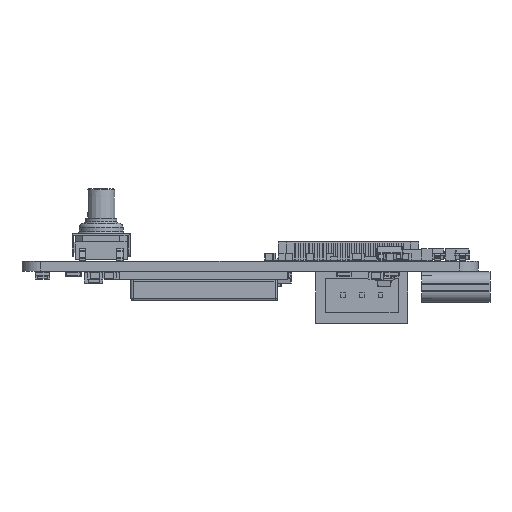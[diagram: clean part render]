
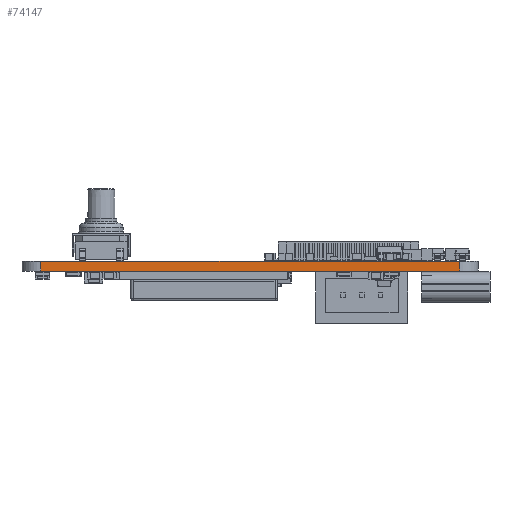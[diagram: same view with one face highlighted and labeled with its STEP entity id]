
A CAD part, left-side view. The second image highlights one B-rep face of the part: STEP entity #74147.
In plain terms, the highlighted planar face has unit normal (-1, 0, 0).
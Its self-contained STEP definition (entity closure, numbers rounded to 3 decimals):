
#73222 = VERTEX_POINT('',#73223);
#73223 = CARTESIAN_POINT('',(3.,-5.5,0.));
#73230 = EDGE_CURVE('',#73231,#73222,#73233,.T.);
#73231 = VERTEX_POINT('',#73232);
#73232 = CARTESIAN_POINT('',(3.,-50.5,0.));
#73233 = LINE('',#73234,#73235);
#73234 = CARTESIAN_POINT('',(3.,-50.5,0.));
#73235 = VECTOR('',#73236,1.);
#73236 = DIRECTION('',(0.,1.,0.));
#73671 = VERTEX_POINT('',#73672);
#73672 = CARTESIAN_POINT('',(3.,-5.5,1.051));
#73679 = EDGE_CURVE('',#73680,#73671,#73682,.T.);
#73680 = VERTEX_POINT('',#73681);
#73681 = CARTESIAN_POINT('',(3.,-50.5,1.051));
#73682 = LINE('',#73683,#73684);
#73683 = CARTESIAN_POINT('',(3.,-50.5,1.051));
#73684 = VECTOR('',#73685,1.);
#73685 = DIRECTION('',(0.,1.,0.));
#74117 = EDGE_CURVE('',#73222,#73671,#74118,.T.);
#74118 = LINE('',#74119,#74120);
#74119 = CARTESIAN_POINT('',(3.,-5.5,0.));
#74120 = VECTOR('',#74121,1.);
#74121 = DIRECTION('',(0.,0.,1.));
#74147 = ADVANCED_FACE('',(#74148),#74159,.T.);
#74148 = FACE_BOUND('',#74149,.T.);
#74149 = EDGE_LOOP('',(#74150,#74156,#74157,#74158));
#74150 = ORIENTED_EDGE('',*,*,#74151,.T.);
#74151 = EDGE_CURVE('',#73231,#73680,#74152,.T.);
#74152 = LINE('',#74153,#74154);
#74153 = CARTESIAN_POINT('',(3.,-50.5,0.));
#74154 = VECTOR('',#74155,1.);
#74155 = DIRECTION('',(0.,0.,1.));
#74156 = ORIENTED_EDGE('',*,*,#73679,.T.);
#74157 = ORIENTED_EDGE('',*,*,#74117,.F.);
#74158 = ORIENTED_EDGE('',*,*,#73230,.F.);
#74159 = PLANE('',#74160);
#74160 = AXIS2_PLACEMENT_3D('',#74161,#74162,#74163);
#74161 = CARTESIAN_POINT('',(3.,-50.5,0.));
#74162 = DIRECTION('',(-1.,0.,0.));
#74163 = DIRECTION('',(0.,1.,0.));
